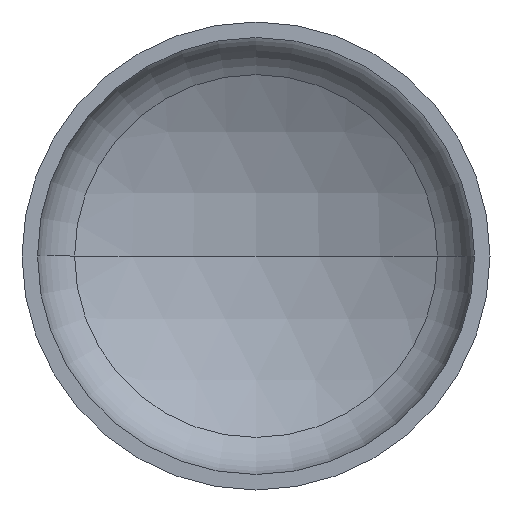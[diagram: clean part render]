
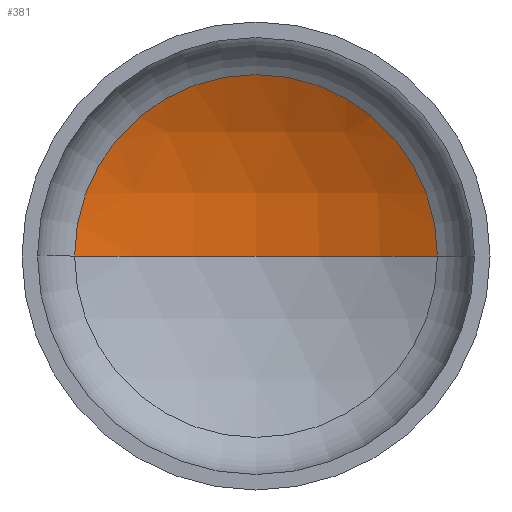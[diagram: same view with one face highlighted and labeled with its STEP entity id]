
A CAD part, front view. The second image highlights one B-rep face of the part: STEP entity #381.
In plain terms, the highlighted spherical face has radius 1040 mm.
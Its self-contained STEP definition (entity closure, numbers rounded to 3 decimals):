
#6 = SPHERICAL_SURFACE ( 'NONE', #316, 1040. ) ;
#22 = AXIS2_PLACEMENT_3D ( 'NONE', #309, #147, #339 ) ;
#28 = AXIS2_PLACEMENT_3D ( 'NONE', #210, #385, #232 ) ;
#29 = AXIS2_PLACEMENT_3D ( 'NONE', #170, #165, #167 ) ;
#56 = VERTEX_POINT ( 'NONE', #197 ) ;
#57 = ORIENTED_EDGE ( 'NONE', *, *, #64, .T. ) ;
#64 = EDGE_CURVE ( 'NONE', #56, #171, #291, .T. ) ;
#66 = DIRECTION ( 'NONE',  ( 0., 0., -1. ) ) ;
#69 = EDGE_LOOP ( 'NONE', ( #77, #384, #57 ) ) ;
#77 = ORIENTED_EDGE ( 'NONE', *, *, #120, .F. ) ;
#86 = EDGE_CURVE ( 'NONE', #153, #56, #144, .T. ) ;
#120 = EDGE_CURVE ( 'NONE', #153, #171, #216, .T. ) ;
#144 = CIRCLE ( 'NONE', #28, 1040. ) ;
#147 = DIRECTION ( 'NONE',  ( 0., 0., 1. ) ) ;
#153 = VERTEX_POINT ( 'NONE', #219 ) ;
#165 = DIRECTION ( 'NONE',  ( 0., -1., 0. ) ) ;
#167 = DIRECTION ( 'NONE',  ( 1., 0., 0. ) ) ;
#168 = FACE_OUTER_BOUND ( 'NONE', #69, .T. ) ;
#170 = CARTESIAN_POINT ( 'NONE',  ( 0., 304.956, 0. ) ) ;
#171 = VERTEX_POINT ( 'NONE', #205 ) ;
#197 = CARTESIAN_POINT ( 'NONE',  ( 503.905, 304.956, 0. ) ) ;
#205 = CARTESIAN_POINT ( 'NONE',  ( -503.905, 304.956, 0. ) ) ;
#210 = CARTESIAN_POINT ( 'NONE',  ( 0., -604.814, 0. ) ) ;
#213 = DIRECTION ( 'NONE',  ( -1., 0., 0. ) ) ;
#216 = CIRCLE ( 'NONE', #22, 1040. ) ;
#219 = CARTESIAN_POINT ( 'NONE',  ( 0., 435.186, 0. ) ) ;
#232 = DIRECTION ( 'NONE',  ( -1., 0., 0. ) ) ;
#291 = CIRCLE ( 'NONE', #29, 503.905 ) ;
#309 = CARTESIAN_POINT ( 'NONE',  ( 0., -604.814, 0. ) ) ;
#316 = AXIS2_PLACEMENT_3D ( 'NONE', #387, #66, #213 ) ;
#339 = DIRECTION ( 'NONE',  ( 1., 0., 0. ) ) ;
#381 = ADVANCED_FACE ( 'NONE', ( #168 ), #6, .F. ) ;
#384 = ORIENTED_EDGE ( 'NONE', *, *, #86, .T. ) ;
#385 = DIRECTION ( 'NONE',  ( 0., 0., -1. ) ) ;
#387 = CARTESIAN_POINT ( 'NONE',  ( 0., -604.814, 0. ) ) ;
